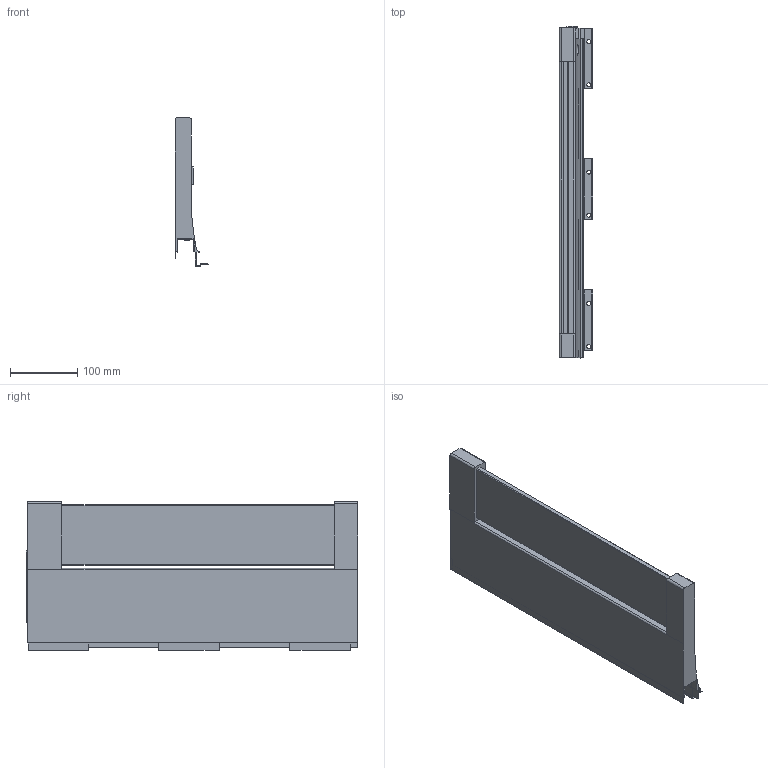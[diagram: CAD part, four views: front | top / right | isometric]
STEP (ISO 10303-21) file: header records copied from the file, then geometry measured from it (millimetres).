
FILE_DESCRIPTION (( 'STEP AP214' ), '1' );
FILE_NAME ('_XP Agantis Dekorseite H127 NL500 LI Top Glashalter.step', '2010-07-08T06:29:31', ( 'grass' ), ( '' ), 'SwSTEP 2.0', 'SolidWorks 2010', '' );
FILE_SCHEMA (( 'AUTOMOTIVE_DESIGN' ));
Length unit declared in the file: millimetre
Products named in the file (1): _XP Agantis Dekorseite H127 NL500 LI  Top Glashalter
Bounding box: 50.11 x 492.6 x 220.7 mm (x, y, z)
Volume: 1559220 mm3; surface area: 301430.6 mm2
Topology: 1 solids, 1 shells, 178 faces, 518 edges, 339 vertices
Faces by surface type: plane 145, cylinder 33
Entity records: 5953 total; most frequent: CARTESIAN_POINT 1123, ORIENTED_EDGE 1036, DIRECTION 940, EDGE_CURVE 518, VECTOR 450, LINE 450, VERTEX_POINT 339, AXIS2_PLACEMENT_3D 245
